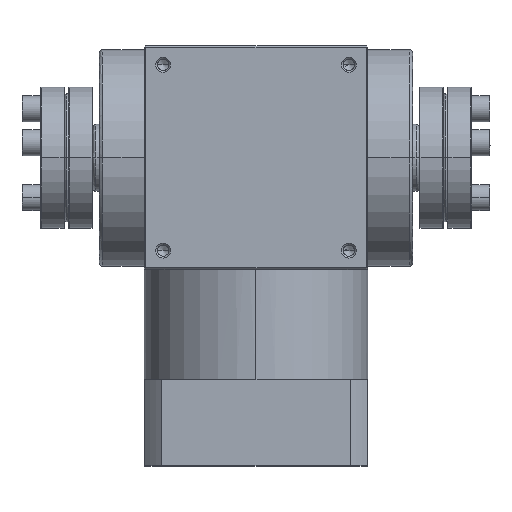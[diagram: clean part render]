
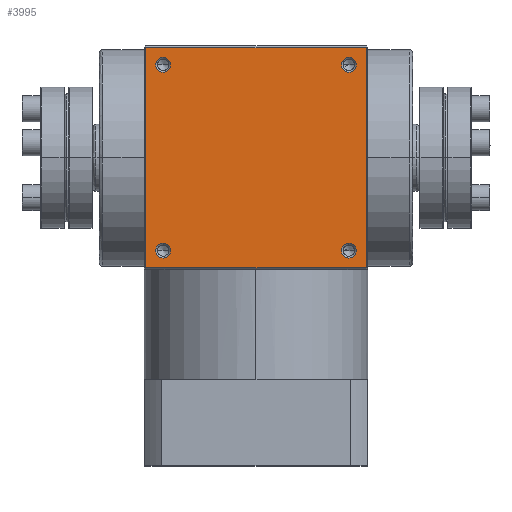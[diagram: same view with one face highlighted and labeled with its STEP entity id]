
A CAD part, top view. The second image highlights one B-rep face of the part: STEP entity #3995.
In plain terms, the highlighted planar face has unit normal (0, 0, 1).
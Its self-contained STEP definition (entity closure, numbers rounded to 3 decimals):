
#238 = CARTESIAN_POINT ( 'NONE',  ( -27., 27., 32.5 ) ) ;
#346 = LINE ( 'NONE', #12293, #802 ) ;
#497 = CARTESIAN_POINT ( 'NONE',  ( -24.85, 27., 32.5 ) ) ;
#777 = DIRECTION ( 'NONE',  ( 1., 0., 0. ) ) ;
#802 = VECTOR ( 'NONE', #13856, 1000. ) ;
#897 = EDGE_CURVE ( 'NONE', #6432, #7548, #4566, .T. ) ;
#1195 = LINE ( 'NONE', #10867, #5365 ) ;
#1266 = ORIENTED_EDGE ( 'NONE', *, *, #11339, .F. ) ;
#1268 = EDGE_CURVE ( 'NONE', #7874, #3139, #7236, .T. ) ;
#1297 = DIRECTION ( 'NONE',  ( 0., 0., 1. ) ) ;
#1699 = DIRECTION ( 'NONE',  ( 0., 0., 1. ) ) ;
#1727 = CARTESIAN_POINT ( 'NONE',  ( -32., 32., 32.5 ) ) ;
#2174 = AXIS2_PLACEMENT_3D ( 'NONE', #19183, #19118, #19015 ) ;
#2351 = LINE ( 'NONE', #15891, #13711 ) ;
#2535 = AXIS2_PLACEMENT_3D ( 'NONE', #14709, #5582, #16258 ) ;
#3139 = VERTEX_POINT ( 'NONE', #12387 ) ;
#3220 = CARTESIAN_POINT ( 'NONE',  ( 24.85, 27., 32.5 ) ) ;
#3271 = ORIENTED_EDGE ( 'NONE', *, *, #16149, .T. ) ;
#3452 = CARTESIAN_POINT ( 'NONE',  ( 32., 0., 32.5 ) ) ;
#3696 = EDGE_CURVE ( 'NONE', #11216, #9063, #6174, .T. ) ;
#3767 = DIRECTION ( 'NONE',  ( 1., 0., 0. ) ) ;
#3796 = DIRECTION ( 'NONE',  ( 0., 0., 1. ) ) ;
#3812 = CARTESIAN_POINT ( 'NONE',  ( 27., 27., 32.5 ) ) ;
#3829 = CIRCLE ( 'NONE', #7422, 2.15 ) ;
#3995 = ADVANCED_FACE ( 'NONE', ( #18782, #17745, #15086, #5663, #18195 ), #19202, .F. ) ;
#4102 = DIRECTION ( 'NONE',  ( 0., 0., 1. ) ) ;
#4566 = CIRCLE ( 'NONE', #10942, 2.15 ) ;
#4596 = DIRECTION ( 'NONE',  ( 1., 0., 0. ) ) ;
#4612 = DIRECTION ( 'NONE',  ( 0., 0., 1. ) ) ;
#4614 = CARTESIAN_POINT ( 'NONE',  ( 27., -27., 32.5 ) ) ;
#4682 = CARTESIAN_POINT ( 'NONE',  ( 27., 27., 32.5 ) ) ;
#4927 = AXIS2_PLACEMENT_3D ( 'NONE', #4682, #4102, #11076 ) ;
#5267 = CARTESIAN_POINT ( 'NONE',  ( 29.15, 27., 32.5 ) ) ;
#5365 = VECTOR ( 'NONE', #18496, 1000. ) ;
#5380 = ORIENTED_EDGE ( 'NONE', *, *, #897, .F. ) ;
#5582 = DIRECTION ( 'NONE',  ( 0., 0., 1. ) ) ;
#5663 = FACE_BOUND ( 'NONE', #5811, .T. ) ;
#5811 = EDGE_LOOP ( 'NONE', ( #17272, #9955 ) ) ;
#5906 = LINE ( 'NONE', #3452, #6865 ) ;
#6174 = CIRCLE ( 'NONE', #4927, 2.15 ) ;
#6280 = CIRCLE ( 'NONE', #13945, 2.15 ) ;
#6432 = VERTEX_POINT ( 'NONE', #7749 ) ;
#6865 = VECTOR ( 'NONE', #15584, 1000. ) ;
#7236 = CIRCLE ( 'NONE', #13245, 2.15 ) ;
#7287 = EDGE_LOOP ( 'NONE', ( #3271, #14239, #17964, #13299 ) ) ;
#7307 = EDGE_CURVE ( 'NONE', #10554, #9372, #12624, .T. ) ;
#7422 = AXIS2_PLACEMENT_3D ( 'NONE', #10702, #1699, #12214 ) ;
#7548 = VERTEX_POINT ( 'NONE', #17608 ) ;
#7749 = CARTESIAN_POINT ( 'NONE',  ( -24.85, -27., 32.5 ) ) ;
#7874 = VERTEX_POINT ( 'NONE', #18561 ) ;
#8018 = ORIENTED_EDGE ( 'NONE', *, *, #3696, .F. ) ;
#8103 = CARTESIAN_POINT ( 'NONE',  ( -32., -32., 32.5 ) ) ;
#8198 = DIRECTION ( 'NONE',  ( 0., 0., 1. ) ) ;
#8963 = DIRECTION ( 'NONE',  ( 1., 0., 0. ) ) ;
#8992 = DIRECTION ( 'NONE',  ( 0., 0., 1. ) ) ;
#8996 = CARTESIAN_POINT ( 'NONE',  ( -27., -27., 32.5 ) ) ;
#9063 = VERTEX_POINT ( 'NONE', #3220 ) ;
#9372 = VERTEX_POINT ( 'NONE', #497 ) ;
#9649 = CIRCLE ( 'NONE', #2535, 2.15 ) ;
#9751 = AXIS2_PLACEMENT_3D ( 'NONE', #10285, #1297, #11817 ) ;
#9806 = DIRECTION ( 'NONE',  ( 1., 0., 0. ) ) ;
#9955 = ORIENTED_EDGE ( 'NONE', *, *, #1268, .F. ) ;
#10150 = VERTEX_POINT ( 'NONE', #17970 ) ;
#10285 = CARTESIAN_POINT ( 'NONE',  ( 27., -27., 32.5 ) ) ;
#10554 = VERTEX_POINT ( 'NONE', #12942 ) ;
#10702 = CARTESIAN_POINT ( 'NONE',  ( -27., -27., 32.5 ) ) ;
#10867 = CARTESIAN_POINT ( 'NONE',  ( -32., 0., 32.5 ) ) ;
#10942 = AXIS2_PLACEMENT_3D ( 'NONE', #8996, #8992, #8963 ) ;
#11076 = DIRECTION ( 'NONE',  ( 1., 0., 0. ) ) ;
#11216 = VERTEX_POINT ( 'NONE', #5267 ) ;
#11339 = EDGE_CURVE ( 'NONE', #9063, #11216, #6280, .T. ) ;
#11540 = VERTEX_POINT ( 'NONE', #1727 ) ;
#11817 = DIRECTION ( 'NONE',  ( 1., 0., 0. ) ) ;
#12214 = DIRECTION ( 'NONE',  ( 1., 0., 0. ) ) ;
#12293 = CARTESIAN_POINT ( 'NONE',  ( 0., -32., 32.5 ) ) ;
#12387 = CARTESIAN_POINT ( 'NONE',  ( 29.15, -27., 32.5 ) ) ;
#12479 = EDGE_LOOP ( 'NONE', ( #5380, #13345 ) ) ;
#12515 = ORIENTED_EDGE ( 'NONE', *, *, #18681, .F. ) ;
#12624 = CIRCLE ( 'NONE', #14179, 2.15 ) ;
#12667 = EDGE_LOOP ( 'NONE', ( #8018, #1266 ) ) ;
#12942 = CARTESIAN_POINT ( 'NONE',  ( -29.15, 27., 32.5 ) ) ;
#13075 = VERTEX_POINT ( 'NONE', #16807 ) ;
#13245 = AXIS2_PLACEMENT_3D ( 'NONE', #4614, #4612, #4596 ) ;
#13299 = ORIENTED_EDGE ( 'NONE', *, *, #17119, .F. ) ;
#13345 = ORIENTED_EDGE ( 'NONE', *, *, #15468, .F. ) ;
#13572 = EDGE_LOOP ( 'NONE', ( #12515, #15591 ) ) ;
#13711 = VECTOR ( 'NONE', #9806, 1000. ) ;
#13856 = DIRECTION ( 'NONE',  ( 1., 0., 0. ) ) ;
#13945 = AXIS2_PLACEMENT_3D ( 'NONE', #3812, #3796, #3767 ) ;
#13990 = EDGE_CURVE ( 'NONE', #3139, #7874, #18350, .T. ) ;
#14179 = AXIS2_PLACEMENT_3D ( 'NONE', #238, #8198, #777 ) ;
#14239 = ORIENTED_EDGE ( 'NONE', *, *, #18441, .F. ) ;
#14349 = VERTEX_POINT ( 'NONE', #8103 ) ;
#14709 = CARTESIAN_POINT ( 'NONE',  ( -27., 27., 32.5 ) ) ;
#15086 = FACE_BOUND ( 'NONE', #12479, .T. ) ;
#15468 = EDGE_CURVE ( 'NONE', #7548, #6432, #3829, .T. ) ;
#15584 = DIRECTION ( 'NONE',  ( 0., -1., 0. ) ) ;
#15591 = ORIENTED_EDGE ( 'NONE', *, *, #7307, .F. ) ;
#15891 = CARTESIAN_POINT ( 'NONE',  ( 0., 32., 32.5 ) ) ;
#16149 = EDGE_CURVE ( 'NONE', #14349, #10150, #346, .T. ) ;
#16258 = DIRECTION ( 'NONE',  ( 1., 0., 0. ) ) ;
#16807 = CARTESIAN_POINT ( 'NONE',  ( 32., 32., 32.5 ) ) ;
#17119 = EDGE_CURVE ( 'NONE', #14349, #11540, #1195, .T. ) ;
#17272 = ORIENTED_EDGE ( 'NONE', *, *, #13990, .F. ) ;
#17608 = CARTESIAN_POINT ( 'NONE',  ( -29.15, -27., 32.5 ) ) ;
#17679 = EDGE_CURVE ( 'NONE', #11540, #13075, #2351, .T. ) ;
#17745 = FACE_BOUND ( 'NONE', #12667, .T. ) ;
#17964 = ORIENTED_EDGE ( 'NONE', *, *, #17679, .F. ) ;
#17970 = CARTESIAN_POINT ( 'NONE',  ( 32., -32., 32.5 ) ) ;
#18195 = FACE_OUTER_BOUND ( 'NONE', #7287, .T. ) ;
#18350 = CIRCLE ( 'NONE', #9751, 2.15 ) ;
#18441 = EDGE_CURVE ( 'NONE', #13075, #10150, #5906, .T. ) ;
#18496 = DIRECTION ( 'NONE',  ( 0., 1., 0. ) ) ;
#18561 = CARTESIAN_POINT ( 'NONE',  ( 24.85, -27., 32.5 ) ) ;
#18681 = EDGE_CURVE ( 'NONE', #9372, #10554, #9649, .T. ) ;
#18782 = FACE_BOUND ( 'NONE', #13572, .T. ) ;
#19015 = DIRECTION ( 'NONE',  ( -1., 0., 0. ) ) ;
#19118 = DIRECTION ( 'NONE',  ( 0., 0., -1. ) ) ;
#19183 = CARTESIAN_POINT ( 'NONE',  ( 32., -32., 32.5 ) ) ;
#19202 = PLANE ( 'NONE',  #2174 ) ;
